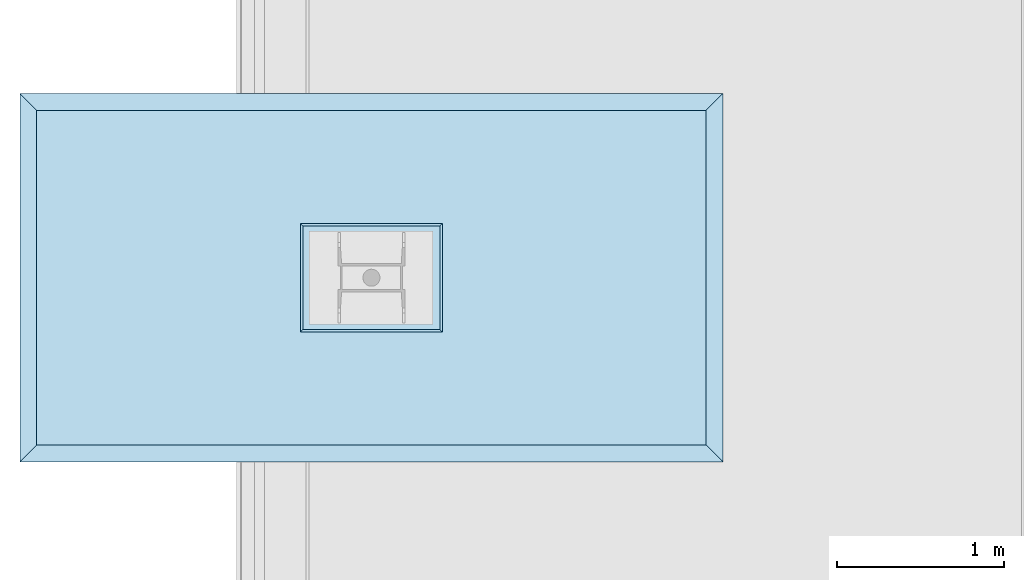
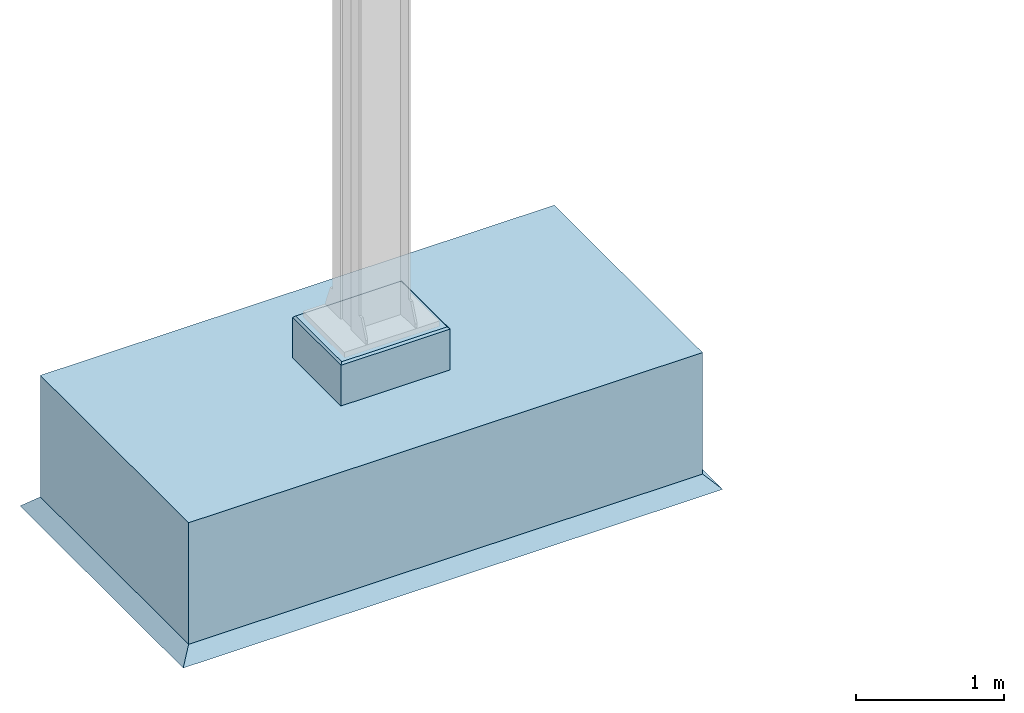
# One storey, incomplete: 1 slab.
"""IFC4 building model written with IfcOpenShell, lengths in metres."""

from ifc_helpers import new_model, entity, si_unit, converted_unit, direction, origin, place, context, subcontext, project, spatial, polygons, material, type_object, element, save


model = new_model("IFC4")

# Units and contexts
model_context = context("Model", 3, precision=1e-05, world=origin(), true_north=direction((6.123031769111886e-17, 1.0)))
body_context = subcontext(model_context, "Body", "Model", "MODEL_VIEW")
ifc_project = project(units=[si_unit("LENGTHUNIT", "METRE"), converted_unit("PLANEANGLEUNIT", "DEGREE", entity("IfcPlaneAngleMeasure", 0.017453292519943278), si_unit("PLANEANGLEUNIT", "RADIAN"), dimensions=[0, 0, 0, 0, 0, 0, 0])], contexts=[model_context])

# Site, building, storey
site_placement = place(None, origin())
site = spatial("IfcSite", under=ifc_project, at=site_placement, Name="Default", CompositionType="ELEMENT")
building_placement = place(site_placement, origin())
building = spatial("IfcBuilding", under=site, at=building_placement, CompositionType="ELEMENT")
storey_placement = place(building_placement, origin())
storey = spatial("IfcBuildingStorey", under=building, at=storey_placement, Name="DB_Bezugshoehe_max_Bahnsteigkante", CompositionType="ELEMENT", Elevation=0.0)

# Slab
ifc_material = material(Name="DB_Ortbeton", Category="DB_Beton")
slab_type = type_object("IfcSlabType", Name="DB_Systemdach_Fundament_Typ4:Variante1", PredefinedType="BASESLAB", material=ifc_material)
slab_placement = place(storey_placement, origin())
element("IfcSlab", 1, at=slab_placement, inside=storey, type_object=slab_type, Name="DB_Systemdach_Fundament_Typ4:Variante1", ObjectType="DB_Systemdach_Fundament_Typ4:Variante1", PredefinedType="BASESLAB", context=body_context, shape_type="Tessellation", body=[
    polygons([(1.9999999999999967, 1.000000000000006, -0.2500000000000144), (-1.9999999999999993, 1.000000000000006, -0.2500000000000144), (-1.9999999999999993, -0.9999999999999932, -0.2500000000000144), (1.9999999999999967, -0.9999999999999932, -0.2500000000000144), (1.9999999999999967, 1.000000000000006, -1.2500000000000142), (1.9999999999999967, -0.9999999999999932, -1.2500000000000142), (-1.9999999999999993, -0.9999999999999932, -1.2500000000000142), (-1.9999999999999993, 1.000000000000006, -1.2500000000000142)], [[[1, 2, 3, 4]], [[5, 6, 7, 8]], [[2, 1, 5, 8]], [[3, 2, 8, 7]], [[4, 3, 7, 6]], [[1, 4, 6, 5]]], closed=True),
    polygons([(1.999999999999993, 1.000000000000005, -1.2500000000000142), (-2.0000000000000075, 1.000000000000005, -1.2500000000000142), (-2.000000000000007, -1.000000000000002, -1.2500000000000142), (1.999999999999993, -1.0000000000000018, -1.2500000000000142), (2.099999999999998, 1.100000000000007, -1.350000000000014), (2.099999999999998, -1.1000000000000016, -1.350000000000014), (-2.100000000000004, -1.1000000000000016, -1.350000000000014), (-2.100000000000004, 1.100000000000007, -1.350000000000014)], [[[1, 2, 3, 4]], [[5, 6, 7, 8]], [[5, 8, 2, 1]], [[8, 7, 3, 2]], [[7, 6, 4, 3]], [[6, 5, 1, 4]]], closed=True),
    polygons([(0.4249999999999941, 0.3249999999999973, 0.08500000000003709), (-0.4250000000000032, 0.3249999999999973, 0.08500000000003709), (-0.4250000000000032, -0.3249999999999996, 0.08500000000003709), (0.4249999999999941, -0.3249999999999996, 0.08500000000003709), (0.4249999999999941, 0.3249999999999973, -0.2500000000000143), (0.4249999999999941, -0.3249999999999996, -0.2500000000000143), (-0.4250000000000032, -0.3249999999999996, -0.2500000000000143), (-0.4250000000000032, 0.3249999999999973, -0.2500000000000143)], [[[1, 2, 3, 4]], [[5, 6, 7, 8]], [[2, 1, 5, 8]], [[3, 2, 8, 7]], [[4, 3, 7, 6]], [[1, 4, 6, 5]]], closed=True),
    polygons([(-0.4100000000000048, 0.3100000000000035, 0.09999999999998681), (-0.410000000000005, -0.30999999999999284, 0.09999999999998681), (0.4099999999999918, -0.30999999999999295, 0.09999999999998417), (0.409999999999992, 0.3100000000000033, 0.09999999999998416), (-0.42500000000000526, 0.3249999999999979, 0.0850000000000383), (0.424999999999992, 0.3249999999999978, 0.08500000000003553), (0.42499999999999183, -0.3249999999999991, 0.08500000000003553), (-0.4250000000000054, -0.324999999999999, 0.0850000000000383)], [[[1, 2, 3, 4]], [[5, 6, 7, 8]], [[6, 5, 1, 4]], [[7, 6, 4, 3]], [[8, 7, 3, 2]], [[5, 8, 2, 1]]], closed=True),
])

save(model, "model.ifc")
